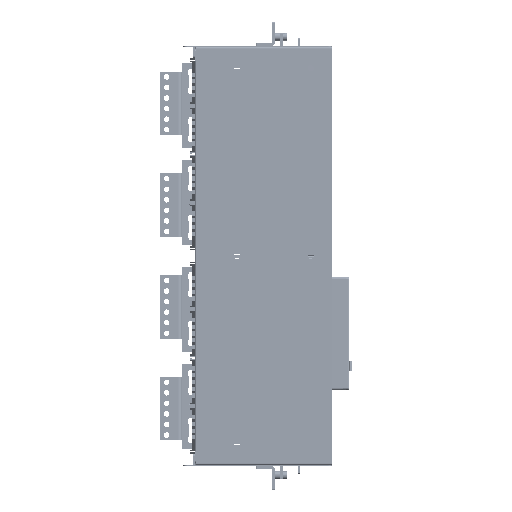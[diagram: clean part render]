
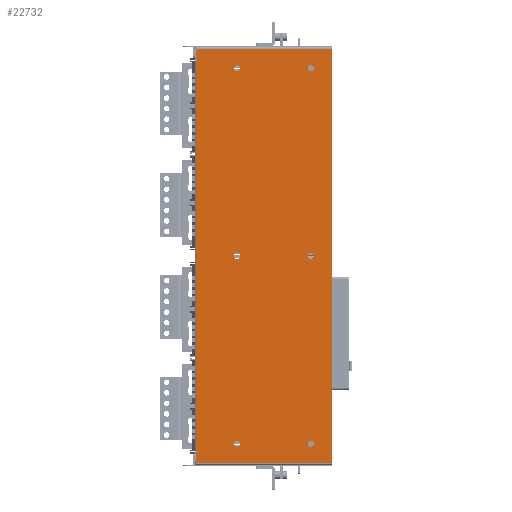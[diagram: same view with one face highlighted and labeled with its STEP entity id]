
A CAD part, front view. The second image highlights one B-rep face of the part: STEP entity #22732.
In plain terms, the highlighted planar face has unit normal (0, -1, 0).
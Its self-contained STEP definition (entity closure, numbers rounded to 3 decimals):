
#20945=DIRECTION('',(1.,0.,0.));
#20946=VECTOR('',#20945,982.4);
#20947=CARTESIAN_POINT('',(-789.8,-3.2,-160.9));
#20948=LINE('',#20947,#20946);
#21254=DIRECTION('',(-1.,0.,0.));
#21255=VECTOR('',#21254,4.);
#21256=CARTESIAN_POINT('',(-759.2,-3.2,157.7));
#21257=LINE('',#21256,#21255);
#21262=CARTESIAN_POINT('',(-764.2,-3.2,159.9));
#21263=DIRECTION('',(0.,1.,0.));
#21264=DIRECTION('',(0.,0.,1.));
#21265=AXIS2_PLACEMENT_3D('',#21262,#21263,#21264);
#21267=DIRECTION('',(0.,0.,-1.));
#21268=VECTOR('',#21267,2.2);
#21269=CARTESIAN_POINT('',(-763.2,-3.2,159.9));
#21270=LINE('',#21269,#21268);
#21271=CARTESIAN_POINT('',(167.,-3.2,159.9));
#21272=DIRECTION('',(0.,1.,0.));
#21273=DIRECTION('',(-1.,0.,0.));
#21274=AXIS2_PLACEMENT_3D('',#21271,#21272,#21273);
#21276=DIRECTION('',(1.,0.,0.));
#21277=VECTOR('',#21276,25.6);
#21278=CARTESIAN_POINT('',(167.,-3.2,160.9));
#21279=LINE('',#21278,#21277);
#21280=DIRECTION('',(1.,0.,0.));
#21281=VECTOR('',#21280,25.6);
#21282=CARTESIAN_POINT('',(-789.8,-3.2,160.9));
#21283=LINE('',#21282,#21281);
#21284=CARTESIAN_POINT('',(146.4,-3.2,64.1));
#21285=DIRECTION('',(0.,-1.,0.));
#21286=DIRECTION('',(-1.,0.,0.));
#21287=AXIS2_PLACEMENT_3D('',#21284,#21285,#21286);
#21289=CARTESIAN_POINT('',(146.4,-3.2,64.1));
#21290=DIRECTION('',(0.,-1.,0.));
#21291=DIRECTION('',(1.,0.,0.));
#21292=AXIS2_PLACEMENT_3D('',#21289,#21290,#21291);
#21294=CARTESIAN_POINT('',(-743.6,-3.2,64.1));
#21295=DIRECTION('',(0.,-1.,0.));
#21296=DIRECTION('',(-1.,0.,0.));
#21297=AXIS2_PLACEMENT_3D('',#21294,#21295,#21296);
#21299=CARTESIAN_POINT('',(-743.6,-3.2,64.1));
#21300=DIRECTION('',(0.,-1.,0.));
#21301=DIRECTION('',(1.,0.,0.));
#21302=AXIS2_PLACEMENT_3D('',#21299,#21300,#21301);
#21304=CARTESIAN_POINT('',(-298.6,-3.2,64.1));
#21305=DIRECTION('',(0.,-1.,0.));
#21306=DIRECTION('',(-1.,0.,0.));
#21307=AXIS2_PLACEMENT_3D('',#21304,#21305,#21306);
#21309=CARTESIAN_POINT('',(-298.6,-3.2,64.1));
#21310=DIRECTION('',(0.,-1.,0.));
#21311=DIRECTION('',(1.,0.,0.));
#21312=AXIS2_PLACEMENT_3D('',#21309,#21310,#21311);
#21314=CARTESIAN_POINT('',(146.4,-3.2,-110.9));
#21315=DIRECTION('',(0.,-1.,0.));
#21316=DIRECTION('',(-1.,0.,0.));
#21317=AXIS2_PLACEMENT_3D('',#21314,#21315,#21316);
#21319=CARTESIAN_POINT('',(146.4,-3.2,-110.9));
#21320=DIRECTION('',(0.,-1.,0.));
#21321=DIRECTION('',(1.,0.,0.));
#21322=AXIS2_PLACEMENT_3D('',#21319,#21320,#21321);
#21324=CARTESIAN_POINT('',(-298.6,-3.2,-110.9));
#21325=DIRECTION('',(0.,-1.,0.));
#21326=DIRECTION('',(-1.,0.,0.));
#21327=AXIS2_PLACEMENT_3D('',#21324,#21325,#21326);
#21329=CARTESIAN_POINT('',(-298.6,-3.2,-110.9));
#21330=DIRECTION('',(0.,-1.,0.));
#21331=DIRECTION('',(1.,0.,0.));
#21332=AXIS2_PLACEMENT_3D('',#21329,#21330,#21331);
#21334=CARTESIAN_POINT('',(-743.6,-3.2,-110.9));
#21335=DIRECTION('',(0.,-1.,0.));
#21336=DIRECTION('',(-1.,0.,0.));
#21337=AXIS2_PLACEMENT_3D('',#21334,#21335,#21336);
#21339=CARTESIAN_POINT('',(-743.6,-3.2,-110.9));
#21340=DIRECTION('',(0.,-1.,0.));
#21341=DIRECTION('',(1.,0.,0.));
#21342=AXIS2_PLACEMENT_3D('',#21339,#21340,#21341);
#21349=DIRECTION('',(0.,0.,-1.));
#21350=VECTOR('',#21349,2.7);
#21351=CARTESIAN_POINT('',(-759.2,-3.2,160.4));
#21352=LINE('',#21351,#21350);
#21362=DIRECTION('',(-1.,0.,0.));
#21363=VECTOR('',#21362,921.2);
#21364=CARTESIAN_POINT('',(162.,-3.2,160.4));
#21365=LINE('',#21364,#21363);
#21392=DIRECTION('',(0.,0.,1.));
#21393=VECTOR('',#21392,2.7);
#21394=CARTESIAN_POINT('',(162.,-3.2,157.7));
#21395=LINE('',#21394,#21393);
#21456=DIRECTION('',(-1.,0.,0.));
#21457=VECTOR('',#21456,4.);
#21458=CARTESIAN_POINT('',(166.,-3.2,157.7));
#21459=LINE('',#21458,#21457);
#21464=DIRECTION('',(0.,0.,-1.));
#21465=VECTOR('',#21464,2.2);
#21466=CARTESIAN_POINT('',(166.,-3.2,159.9));
#21467=LINE('',#21466,#21465);
#21704=DIRECTION('',(0.,0.,1.));
#21705=VECTOR('',#21704,321.8);
#21706=CARTESIAN_POINT('',(192.6,-3.2,-160.9));
#21707=LINE('',#21706,#21705);
#21806=DIRECTION('',(0.,0.,-1.));
#21807=VECTOR('',#21806,321.8);
#21808=CARTESIAN_POINT('',(-789.8,-3.2,160.9));
#21809=LINE('',#21808,#21807);
#22033=CARTESIAN_POINT('',(-789.8,-3.2,-160.9));
#22034=VERTEX_POINT('',#22033);
#22035=CARTESIAN_POINT('',(192.6,-3.2,-160.9));
#22036=VERTEX_POINT('',#22035);
#22167=CARTESIAN_POINT('',(-763.2,-3.2,159.9));
#22168=VERTEX_POINT('',#22167);
#22169=CARTESIAN_POINT('',(-764.2,-3.2,160.9));
#22170=VERTEX_POINT('',#22169);
#22171=CARTESIAN_POINT('',(-763.2,-3.2,157.7));
#22172=VERTEX_POINT('',#22171);
#22173=CARTESIAN_POINT('',(-759.2,-3.2,157.7));
#22174=VERTEX_POINT('',#22173);
#22175=CARTESIAN_POINT('',(-759.2,-3.2,160.4));
#22176=VERTEX_POINT('',#22175);
#22177=CARTESIAN_POINT('',(162.,-3.2,160.4));
#22178=VERTEX_POINT('',#22177);
#22179=CARTESIAN_POINT('',(162.,-3.2,157.7));
#22180=VERTEX_POINT('',#22179);
#22181=CARTESIAN_POINT('',(166.,-3.2,157.7));
#22182=VERTEX_POINT('',#22181);
#22183=CARTESIAN_POINT('',(166.,-3.2,159.9));
#22184=VERTEX_POINT('',#22183);
#22185=CARTESIAN_POINT('',(167.,-3.2,160.9));
#22186=VERTEX_POINT('',#22185);
#22187=CARTESIAN_POINT('',(192.6,-3.2,160.9));
#22188=VERTEX_POINT('',#22187);
#22189=CARTESIAN_POINT('',(-789.8,-3.2,160.9));
#22190=VERTEX_POINT('',#22189);
#22191=CARTESIAN_POINT('',(139.4,-3.2,64.1));
#22192=CARTESIAN_POINT('',(153.4,-3.2,64.1));
#22193=VERTEX_POINT('',#22191);
#22194=VERTEX_POINT('',#22192);
#22195=CARTESIAN_POINT('',(-750.6,-3.2,64.1));
#22196=CARTESIAN_POINT('',(-736.6,-3.2,64.1));
#22197=VERTEX_POINT('',#22195);
#22198=VERTEX_POINT('',#22196);
#22199=CARTESIAN_POINT('',(-305.6,-3.2,64.1));
#22200=CARTESIAN_POINT('',(-291.6,-3.2,64.1));
#22201=VERTEX_POINT('',#22199);
#22202=VERTEX_POINT('',#22200);
#22203=CARTESIAN_POINT('',(139.4,-3.2,-110.9));
#22204=CARTESIAN_POINT('',(153.4,-3.2,-110.9));
#22205=VERTEX_POINT('',#22203);
#22206=VERTEX_POINT('',#22204);
#22207=CARTESIAN_POINT('',(-305.6,-3.2,-110.9));
#22208=CARTESIAN_POINT('',(-291.6,-3.2,-110.9));
#22209=VERTEX_POINT('',#22207);
#22210=VERTEX_POINT('',#22208);
#22211=CARTESIAN_POINT('',(-750.6,-3.2,-110.9));
#22212=CARTESIAN_POINT('',(-736.6,-3.2,-110.9));
#22213=VERTEX_POINT('',#22211);
#22214=VERTEX_POINT('',#22212);
#22665=CARTESIAN_POINT('',(-793.5,-3.2,-160.9));
#22666=DIRECTION('',(0.,-1.,0.));
#22667=DIRECTION('',(1.,0.,0.));
#22668=AXIS2_PLACEMENT_3D('',#22665,#22666,#22667);
#22669=PLANE('',#22668);
#22670=ORIENTED_EDGE('',*,*,#22630,.T.);
#22671=ORIENTED_EDGE('',*,*,#22646,.T.);
#22672=ORIENTED_EDGE('',*,*,#22656,.F.);
#22674=ORIENTED_EDGE('',*,*,#22673,.F.);
#22676=ORIENTED_EDGE('',*,*,#22675,.F.);
#22678=ORIENTED_EDGE('',*,*,#22677,.F.);
#22680=ORIENTED_EDGE('',*,*,#22679,.F.);
#22682=ORIENTED_EDGE('',*,*,#22681,.F.);
#22684=ORIENTED_EDGE('',*,*,#22683,.T.);
#22686=ORIENTED_EDGE('',*,*,#22685,.T.);
#22688=ORIENTED_EDGE('',*,*,#22687,.F.);
#22689=ORIENTED_EDGE('',*,*,#22366,.F.);
#22691=ORIENTED_EDGE('',*,*,#22690,.F.);
#22693=ORIENTED_EDGE('',*,*,#22692,.T.);
#22694=EDGE_LOOP('',(#22670,#22671,#22672,#22674,#22676,#22678,#22680,#22682,
#22684,#22686,#22688,#22689,#22691,#22693));
#22695=FACE_OUTER_BOUND('',#22694,.F.);
#22697=ORIENTED_EDGE('',*,*,#22696,.T.);
#22699=ORIENTED_EDGE('',*,*,#22698,.T.);
#22700=EDGE_LOOP('',(#22697,#22699));
#22701=FACE_BOUND('',#22700,.F.);
#22703=ORIENTED_EDGE('',*,*,#22702,.T.);
#22705=ORIENTED_EDGE('',*,*,#22704,.T.);
#22706=EDGE_LOOP('',(#22703,#22705));
#22707=FACE_BOUND('',#22706,.F.);
#22709=ORIENTED_EDGE('',*,*,#22708,.T.);
#22711=ORIENTED_EDGE('',*,*,#22710,.T.);
#22712=EDGE_LOOP('',(#22709,#22711));
#22713=FACE_BOUND('',#22712,.F.);
#22715=ORIENTED_EDGE('',*,*,#22714,.T.);
#22717=ORIENTED_EDGE('',*,*,#22716,.T.);
#22718=EDGE_LOOP('',(#22715,#22717));
#22719=FACE_BOUND('',#22718,.F.);
#22721=ORIENTED_EDGE('',*,*,#22720,.T.);
#22723=ORIENTED_EDGE('',*,*,#22722,.T.);
#22724=EDGE_LOOP('',(#22721,#22723));
#22725=FACE_BOUND('',#22724,.F.);
#22727=ORIENTED_EDGE('',*,*,#22726,.T.);
#22729=ORIENTED_EDGE('',*,*,#22728,.T.);
#22730=EDGE_LOOP('',(#22727,#22729));
#22731=FACE_BOUND('',#22730,.F.);
#22732=ADVANCED_FACE('',(#22695,#22701,#22707,#22713,#22719,#22725,#22731),
#22669,.T.);
#21266=CIRCLE('',#21265,1.);
#21275=CIRCLE('',#21274,1.);
#21288=CIRCLE('',#21287,7.);
#21293=CIRCLE('',#21292,7.);
#21298=CIRCLE('',#21297,7.);
#21303=CIRCLE('',#21302,7.);
#21308=CIRCLE('',#21307,7.);
#21313=CIRCLE('',#21312,7.);
#21318=CIRCLE('',#21317,7.);
#21323=CIRCLE('',#21322,7.);
#21328=CIRCLE('',#21327,7.);
#21333=CIRCLE('',#21332,7.);
#21338=CIRCLE('',#21337,7.);
#21343=CIRCLE('',#21342,7.);
#22366=EDGE_CURVE('',#22034,#22036,#20948,.T.);
#22630=EDGE_CURVE('',#22170,#22168,#21266,.T.);
#22646=EDGE_CURVE('',#22168,#22172,#21270,.T.);
#22656=EDGE_CURVE('',#22174,#22172,#21257,.T.);
#22673=EDGE_CURVE('',#22176,#22174,#21352,.T.);
#22675=EDGE_CURVE('',#22178,#22176,#21365,.T.);
#22677=EDGE_CURVE('',#22180,#22178,#21395,.T.);
#22679=EDGE_CURVE('',#22182,#22180,#21459,.T.);
#22681=EDGE_CURVE('',#22184,#22182,#21467,.T.);
#22683=EDGE_CURVE('',#22184,#22186,#21275,.T.);
#22685=EDGE_CURVE('',#22186,#22188,#21279,.T.);
#22687=EDGE_CURVE('',#22036,#22188,#21707,.T.);
#22690=EDGE_CURVE('',#22190,#22034,#21809,.T.);
#22692=EDGE_CURVE('',#22190,#22170,#21283,.T.);
#22696=EDGE_CURVE('',#22193,#22194,#21288,.T.);
#22698=EDGE_CURVE('',#22194,#22193,#21293,.T.);
#22702=EDGE_CURVE('',#22197,#22198,#21298,.T.);
#22704=EDGE_CURVE('',#22198,#22197,#21303,.T.);
#22708=EDGE_CURVE('',#22201,#22202,#21308,.T.);
#22710=EDGE_CURVE('',#22202,#22201,#21313,.T.);
#22714=EDGE_CURVE('',#22205,#22206,#21318,.T.);
#22716=EDGE_CURVE('',#22206,#22205,#21323,.T.);
#22720=EDGE_CURVE('',#22209,#22210,#21328,.T.);
#22722=EDGE_CURVE('',#22210,#22209,#21333,.T.);
#22726=EDGE_CURVE('',#22213,#22214,#21338,.T.);
#22728=EDGE_CURVE('',#22214,#22213,#21343,.T.);
